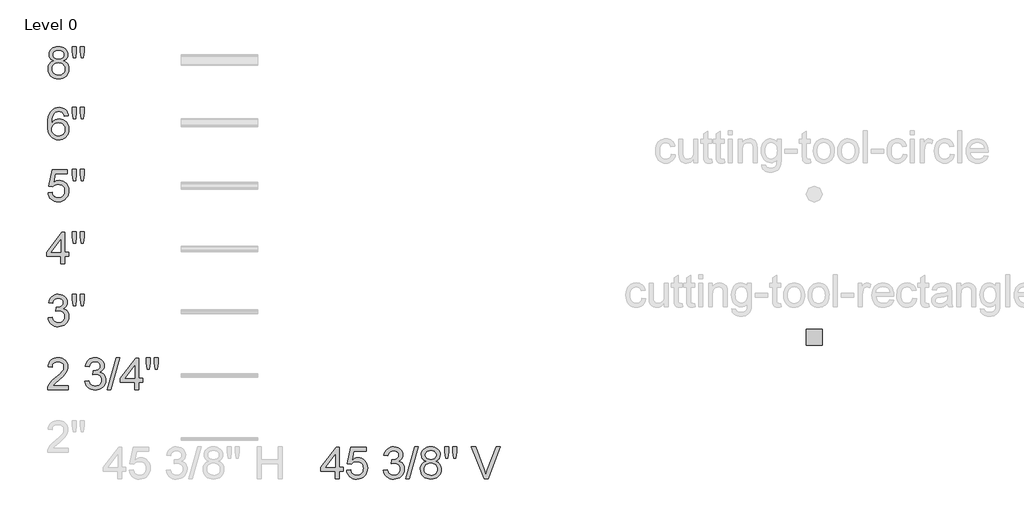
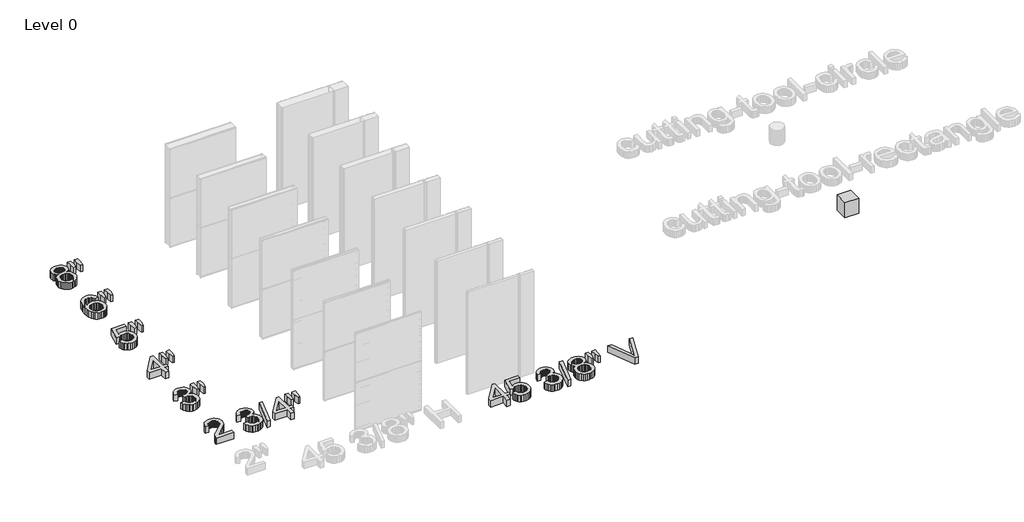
# One storey, part 2 of 4: 8 proxies.
"""IFC4 building model written with IfcOpenShell, lengths in millimetres."""

from ifc_helpers import new_model, si_unit, origin, origin_with_axes, place, context, project, spatial, polyline, outline, extrude, transform, mapped, element, save
from components import kingspan_ks_cutting_tool_rectangle_cutting_tool_rectangle_f435e5aa

model = new_model("IFC4")

# Units and contexts
model_context = context("Model", 3, world=origin())
ifc_project = project(units=[si_unit("LENGTHUNIT", "METRE", prefix="MILLI")], contexts=[model_context])

# Site, building, storey
site = spatial("IfcSite", under=ifc_project)
building = spatial("IfcBuilding", under=site)
storey = spatial("IfcBuildingStorey", under=building, Name="Level 0", Elevation=0.0)

# Proxies
placement = place(None, origin())
element("IfcBuildingElementProxy", 1, Name="24\" Arial", ObjectType="24\" Arial", at=placement, inside=storey, context=model_context, shape_type="SweptSolid", body=[
    extrude(outline(polyline([(-6239.8863907, 6438.6033745), (-6239.8863907, 6581.3691999), (-6515.9003197, 6581.3691999), (-6515.9003197, 6657.5109734), (-6220.8509473, 7038.219841), (-6163.7446171, 7038.219841), (-6163.7446171, 6657.5109734), (-6087.6028436, 6657.5109734), (-6087.6028436, 6581.3691999), (-6163.7446171, 6581.3691999), (-6163.7446171, 6438.6033745), (-6239.8863907, 6438.6033745)]), holes=[polyline([(-6239.8863907, 6657.5109734), (-6239.8863907, 6892.7771564), (-6422.2102468, 6657.5109734), (-6239.8863907, 6657.5109734)])]), origin_with_axes(), (0.0, 0.0, 1.0), 152.4),
    extrude(outline(polyline([(-6020.9787918, 6600.4046433), (-5944.8370183, 6609.922365), (-5939.1486924, 6585.4449039), (-5930.8578645, 6564.2112758), (-5919.9645346, 6546.2214806), (-5906.4687027, 6531.4755182), (-5890.3982527, 6519.991978), (-5871.7810686, 6511.7894493), (-5850.6171503, 6506.8679321), (-5826.906498, 6505.2274264), (-5797.9071897, 6507.509263), (-5772.3283126, 6514.3547728), (-5750.1698668, 6525.7639557), (-5731.4318523, 6541.7368119), (-5716.5325282, 6561.483296), (-5705.8901538, 6584.2133628), (-5699.5047292, 6609.9270123), (-5697.3762543, 6638.6242444), (-5699.3699568, 6665.7460334), (-5705.3510641, 6689.8563557), (-5715.3195763, 6710.9552114), (-5729.2754934, 6729.0426005), (-5747.2652887, 6743.5515493), (-5769.3354353, 6753.9150841), (-5795.4859333, 6760.133205), (-5825.7167828, 6762.205912), (-5862.6537222, 6758.8970166), (-5892.5639062, 6748.9703303), (-5916.4511569, 6733.7642827), (-5935.3192966, 6714.6173035), (-6011.4610701, 6724.1350252), (-5944.8370183, 7038.219841), (-5649.7876459, 7038.219841), (-5649.7876459, 6962.0780675), (-5883.2692561, 6962.0780675), (-5915.83771, 6794.3282227), (-5888.9668766, 6813.5867377), (-5861.4454177, 6827.3428198), (-5833.2733333, 6835.5964691), (-5804.4506234, 6838.3476855), (-5767.3696168, 6834.9365489), (-5733.3093716, 6824.7031392), (-5702.2698876, 6807.6474563), (-5674.2511649, 6783.7695002), (-5651.0563656, 6754.528531), (-5634.4886519, 6721.3838088), (-5624.5480236, 6684.3353336), (-5621.2344808, 6643.3831053), (-5624.2180635, 6603.9366103), (-5633.1688115, 6567.2413317), (-5648.0867249, 6533.2972696), (-5668.9718037, 6502.1044239), (-5700.6107926, 6470.1587116), (-5737.5291427, 6447.3403456), (-5779.7268541, 6433.649326), (-5827.2039268, 6429.0856528), (-5866.49706, 6432.018115), (-5901.9886814, 6440.8155013), (-5933.6787908, 6455.4778118), (-5961.5673884, 6476.0050465), (-5984.7714824, 6501.3747939), (-6002.4080809, 6530.5646425), (-6014.4771841, 6563.5745923), (-6020.9787918, 6600.4046433)])), origin_with_axes(), (0.0, 0.0, 1.0), 152.4),
    extrude(outline(polyline([(-5316.6673868, 6600.4046433), (-5240.5256132, 6609.922365), (-5223.479225, 6562.0735063), (-5211.9863901, 6543.9768226), (-5198.5137948, 6529.7653026), (-5182.7547156, 6519.0299817), (-5164.402429, 6511.3618954), (-5143.4569351, 6506.7610436), (-5119.9182337, 6505.2274264), (-5092.3317122, 6507.3373119), (-5067.7194788, 6513.6669686), (-5046.0815334, 6524.2163965), (-5027.417876, 6538.9855955), (-5012.3884268, 6556.8685023), (-5001.653106, 6576.7590534), (-4995.2119135, 6598.657249), (-4993.0648493, 6622.5630891), (-4995.1933242, 6645.3303345), (-5001.5787488, 6666.0434622), (-5012.2211231, 6684.7024722), (-5027.1204472, 6701.3073646), (-5045.3007828, 6714.937969), (-5065.7861916, 6724.6741149), (-5088.5766736, 6730.5158025), (-5113.6722288, 6732.4630317), (-5137.7267833, 6730.3810301), (-5167.0606989, 6724.1350252), (-5158.5839781, 6800.2767987), (-5146.3893972, 6799.3845123), (-5100.7712545, 6804.8497666), (-5059.9863299, 6821.2455293), (-5043.2001919, 6833.6445926), (-5031.2100933, 6848.9807652), (-5024.0160341, 6867.2540473), (-5021.6180144, 6888.4644388), (-5023.3561139, 6905.6827781), (-5028.5704126, 6921.3489108), (-5037.2609105, 6935.4628369), (-5049.4276074, 6948.0245565), (-5064.3362262, 6958.3369708), (-5081.2524893, 6965.702981), (-5100.1763969, 6970.1225871), (-5121.1079489, 6971.5957892), (-5141.983733, 6970.1086451), (-5161.0377657, 6965.6472131), (-5178.270047, 6958.211493), (-5193.6805768, 6947.8014849), (-5206.8882746, 6934.4171888), (-5217.5120596, 6918.0586047), (-5225.5519319, 6898.7257325), (-5231.0078916, 6876.4185723), (-5307.1496651, 6885.936294), (-5298.1245598, 6922.2876704), (-5284.7309691, 6954.30774), (-5266.9688927, 6981.9965026), (-5244.8383309, 7005.3539583), (-5219.0363822, 7023.8967852), (-5190.2601456, 7037.1416616), (-5158.5096209, 7045.0885874), (-5123.7848081, 7047.7375627), (-5075.9173602, 7042.5139693), (-5031.9536653, 7026.8431893), (-4994.8866007, 7002.11942), (-4967.7090439, 6969.7368591), (-4951.0344416, 6932.4281337), (-4945.4762409, 6892.9258708), (-4950.7556021, 6856.1190565), (-4966.5936859, 6822.7326734), (-4992.7674205, 6794.2910441), (-5029.0537344, 6772.3184913), (-5003.6793397, 6764.3808601), (-4981.3907688, 6753.0599763), (-4962.1880217, 6738.3558399), (-4946.0710985, 6720.2684508), (-4933.3188385, 6699.2439523), (-4924.2100815, 6675.7284876), (-4918.7448272, 6649.7220566), (-4916.9230758, 6621.2246595), (-4920.5665786, 6582.5960937), (-4931.4970871, 6547.0161732), (-4949.7146013, 6514.4848979), (-4975.2191211, 6485.0022678), (-5006.2911364, 6460.5387487), (-5041.2111368, 6443.0648066), (-5079.9791223, 6432.5804413), (-5122.5950929, 6429.0856528), (-5161.1121229, 6432.0692355), (-5196.2087216, 6441.0199836), (-5227.8848891, 6455.937897), (-5256.1406254, 6476.8229757), (-5279.8326885, 6502.448326), (-5297.8178364, 6531.587054), (-5310.0960691, 6564.2391598), (-5316.6673868, 6600.4046433)])), origin_with_axes(), (0.0, 0.0, 1.0), 152.4),
    extrude(outline(polyline([(-4888.3699107, 6438.6033745), (-4717.0509203, 7047.7375627), (-4648.3448669, 7047.7375627), (-4819.6638573, 6438.6033745), (-4888.3699107, 6438.6033745)])), origin_with_axes(), (0.0, 0.0, 1.0), 152.4),
    extrude(outline(polyline([(-4501.4150383, 6774.1030641), (-4542.1813736, 6794.1795083), (-4558.0055153, 6806.8945896), (-4570.7903065, 6821.3942437), (-4580.647283, 6837.5390509), (-4587.6879804, 6855.1895915), (-4593.3205383, 6895.0078724), (-4590.2533038, 6926.0612984), (-4581.0516002, 6954.5308116), (-4565.7154276, 6980.4164121), (-4544.2447859, 7003.7180999), (-4517.6713813, 7022.9766148), (-4487.0269199, 7036.732697), (-4452.3114019, 7044.9863462), (-4413.5248271, 7047.7375627), (-4374.5523592, 7044.9212837), (-4339.576591, 7036.4724468), (-4308.5975222, 7022.3910519), (-4281.615153, 7002.677099), (-4259.754136, 6978.9199734), (-4244.1391239, 6952.7090602), (-4234.7701166, 6924.0443593), (-4231.6471141, 6892.9258708), (-4237.2053149, 6854.3902516), (-4253.8799171, 6821.1711721), (-4266.4323421, 6806.7691118), (-4281.8568139, 6794.1237404), (-4321.3218982, 6774.1030641), (-4296.2960528, 6763.4560424), (-4274.4582724, 6749.9555632), (-4255.808557, 6733.6016263), (-4240.3469066, 6714.3942319), (-4228.2127409, 6692.7609339), (-4219.5454797, 6669.129286), (-4214.345123, 6643.4992884), (-4212.6116708, 6615.870941), (-4216.0506913, 6577.8930007), (-4226.3677529, 6543.0752415), (-4243.5628556, 6511.4176633), (-4267.6359993, 6482.9202662), (-4297.3231117, 6459.3676228), (-4331.3601203, 6442.5443062), (-4369.7470251, 6432.4503162), (-4412.4838262, 6429.0856528), (-4455.2206273, 6432.4642582), (-4493.6075322, 6442.6000741), (-4527.6445408, 6459.4931006), (-4557.3316532, 6483.1433378), (-4581.4047969, 6511.8405699), (-4598.5998996, 6543.8745814), (-4608.9169612, 6579.2453723), (-4612.3559817, 6617.9529426), (-4610.5528196, 6646.8407151), (-4605.1433333, 6673.2746999), (-4596.1275227, 6697.2548972), (-4583.5053879, 6718.7813068), (-4567.5557683, 6737.4635535), (-4548.5575035, 6752.9112619), (-4526.5105935, 6765.1244321), (-4501.4150383, 6774.1030641)]), holes=[polyline([(-4517.1787648, 6892.7771564), (-4515.4917858, 6875.3218036), (-4510.4308489, 6859.5394877), (-4501.9959539, 6845.4302089), (-4490.187101, 6832.9939671), (-4475.1530045, 6822.8442092), (-4457.0423788, 6815.5943821), (-4435.8552239, 6811.2444858), (-4411.5915398, 6809.7945204), (-4387.9273607, 6811.2351912), (-4367.200291, 6815.5572035), (-4349.4103307, 6822.7605573), (-4334.5574799, 6832.8452527), (-4322.8462208, 6845.0212443), (-4314.4810357, 6858.4984869), (-4309.4619247, 6873.2769805), (-4307.7888877, 6889.3567252), (-4309.5176926, 6906.0638587), (-4314.7041073, 6921.3860894), (-4323.3481319, 6935.3234172), (-4335.4497663, 6947.8758421), (-4350.6372246, 6958.253319), (-4368.5387206, 6965.6658024), (-4389.1542545, 6970.1132925), (-4412.4838262, 6971.5957892), (-4435.9946436, 6970.1458237), (-4456.7077714, 6965.7959275), (-4474.6232094, 6958.5461004), (-4489.7409578, 6948.3963425), (-4501.7449984, 6936.2203509), (-4510.3193131, 6922.8918227), (-4515.4639019, 6908.4107579), (-4517.1787648, 6892.7771564)]), polyline([(-4536.2142082, 6620.6298019), (-4533.0354379, 6591.5003685), (-4523.4991269, 6563.3004001), (-4505.8950596, 6538.706756), (-4478.5130205, 6520.3962953), (-4445.721495, 6509.0196436), (-4411.8889686, 6505.2274264), (-4384.3582151, 6507.2211288), (-4360.0619997, 6513.2022361), (-4339.0003227, 6523.1707484), (-4321.1731838, 6537.1266655), (-4306.9895477, 6554.1591118), (-4296.8583792, 6573.3572115), (-4290.779678, 6594.7209647), (-4288.7534443, 6618.2503714), (-4290.8447405, 6642.1562115), (-4297.1186294, 6663.9056927), (-4307.5751107, 6683.498815), (-4322.2141846, 6700.9355786), (-4340.5246453, 6715.2493397), (-4361.995287, 6725.4734548), (-4386.6261097, 6731.6079239), (-4414.4171135, 6733.6527469), (-4441.5435497, 6731.6358078), (-4465.5190996, 6725.5849906), (-4486.3437632, 6715.5002953), (-4504.0175403, 6701.3817218), (-4518.1035825, 6684.2330924), (-4528.1650412, 6665.0582293), (-4534.2019165, 6643.8571324), (-4536.2142082, 6620.6298019)])]), origin_with_axes(), (0.0, 0.0, 1.0), 152.4),
    extrude(outline(polyline([(-4127.3983188, 6828.8299638), (-4145.9876189, 6946.4630553), (-4145.9876189, 7047.7375627), (-4069.8458454, 7047.7375627), (-4069.8458454, 6946.4630553), (-4086.5018584, 6828.8299638), (-4127.3983188, 6828.8299638)])), origin_with_axes(), (0.0, 0.0, 1.0), 152.4),
    extrude(outline(polyline([(-3975.5609149, 6828.8299638), (-3993.7040719, 6946.4630553), (-3993.7040719, 7047.7375627), (-3917.5622984, 7047.7375627), (-3917.5622984, 6946.4630553), (-3935.4080265, 6828.8299638), (-3975.5609149, 6828.8299638)])), origin_with_axes(), (0.0, 0.0, 1.0), 152.4),
    extrude(outline(polyline([(-3394.9798919, 6438.6033745), (-3637.3843661, 7047.7375627), (-3555.8888742, 7047.7375627), (-3393.6414622, 6608.8813641), (-3360.7755795, 6509.9862872), (-3328.35584, 6608.8813641), (-3165.6622849, 7047.7375627), (-3084.1667929, 7047.7375627), (-3316.3099735, 6438.6033745), (-3394.9798919, 6438.6033745)])), origin_with_axes(), (0.0, 0.0, 1.0), 152.4),
])
element("IfcBuildingElementProxy", 2, Name="24\" Arial", ObjectType="24\" Arial", at=placement, inside=storey, context=model_context, shape_type="SweptSolid", body=[
    extrude(outline(polyline([(-11728.2912313, 9515.3406282), (-11652.1494578, 9524.8583499), (-11635.1030695, 9477.0094913), (-11623.6102347, 9458.9128075), (-11610.1376394, 9444.7012876), (-11594.3785602, 9433.9659667), (-11576.0262736, 9426.2978804), (-11555.0807796, 9421.6970286), (-11531.5420783, 9420.1634113), (-11503.9555568, 9422.2732969), (-11479.3433234, 9428.6029536), (-11457.705378, 9439.1523815), (-11439.0417206, 9453.9215804), (-11424.0122714, 9471.8044872), (-11413.2769505, 9491.6950384), (-11406.835758, 9513.593234), (-11404.6886939, 9537.499074), (-11406.8171687, 9560.2663194), (-11413.2025933, 9580.9794471), (-11423.8449677, 9599.6384572), (-11438.7442918, 9616.2433496), (-11456.9246274, 9629.8739539), (-11477.4100361, 9639.6100999), (-11500.2005182, 9645.4517875), (-11525.2960734, 9647.3990167), (-11549.3506278, 9645.317015), (-11578.6845435, 9639.0710102), (-11570.2078226, 9715.2127837), (-11558.0132417, 9714.3204973), (-11512.3950991, 9719.7857515), (-11471.6101745, 9736.1815143), (-11454.8240364, 9748.5805775), (-11442.8339378, 9763.9167502), (-11435.6398787, 9782.1900322), (-11433.2418589, 9803.4004237), (-11434.9799585, 9820.618763), (-11440.1942572, 9836.2848957), (-11448.884755, 9850.3988219), (-11461.051452, 9862.9605415), (-11475.9600707, 9873.2729558), (-11492.8763339, 9880.638966), (-11511.8002415, 9885.0585721), (-11532.7317935, 9886.5317741), (-11553.6075776, 9885.0446301), (-11572.6616102, 9880.5831981), (-11589.8938915, 9873.147478), (-11605.3044213, 9862.7374699), (-11618.5121191, 9849.3531738), (-11629.1359042, 9832.9945896), (-11637.1757765, 9813.6617174), (-11642.6317361, 9791.3545572), (-11718.7735096, 9800.8722789), (-11709.7484044, 9837.2236554), (-11696.3548136, 9869.243725), (-11678.5927373, 9896.9324876), (-11656.4621754, 9920.2899432), (-11630.6602268, 9938.8327702), (-11601.8839901, 9952.0776465), (-11570.1334654, 9960.0245724), (-11535.4086527, 9962.6735476), (-11487.5412047, 9957.4499543), (-11443.5775098, 9941.7791742), (-11406.5104453, 9917.055405), (-11379.3328884, 9884.6728441), (-11362.6582862, 9847.3641186), (-11357.1000854, 9807.8618558), (-11362.3794467, 9771.0550414), (-11378.2175304, 9737.6686583), (-11404.3912651, 9709.227029), (-11440.677579, 9687.2544762), (-11415.3031843, 9679.3168451), (-11393.0146134, 9667.9959613), (-11373.8118663, 9653.2918248), (-11357.694943, 9635.2044358), (-11344.9426831, 9614.1799373), (-11335.833926, 9590.6644725), (-11330.3686718, 9564.6580416), (-11328.5469203, 9536.1606444), (-11332.1904232, 9497.5320787), (-11343.1209317, 9461.9521581), (-11361.3384459, 9429.4208828), (-11386.8429657, 9399.9382527), (-11417.9149809, 9375.4747337), (-11452.8349813, 9358.0007915), (-11491.6029668, 9347.5164262), (-11534.2189375, 9344.0216378), (-11572.7359674, 9347.0052205), (-11607.8325662, 9355.9559685), (-11639.5087337, 9370.8738819), (-11667.7644699, 9391.7589607), (-11691.456533, 9417.3843109), (-11709.4416809, 9446.523039), (-11721.7199137, 9479.1751447), (-11728.2912313, 9515.3406282)])), origin_with_axes(), (0.0, 0.0, 1.0), 152.4),
    extrude(outline(polyline([(-11243.3335683, 9743.7659488), (-11261.9228685, 9861.3990403), (-11261.9228685, 9962.6735476), (-11185.781095, 9962.6735476), (-11185.781095, 9861.3990403), (-11202.437108, 9743.7659488), (-11243.3335683, 9743.7659488)])), origin_with_axes(), (0.0, 0.0, 1.0), 152.4),
    extrude(outline(polyline([(-11091.4961645, 9743.7659488), (-11109.6393215, 9861.3990403), (-11109.6393215, 9962.6735476), (-11033.497548, 9962.6735476), (-11033.497548, 9861.3990403), (-11051.3432761, 9743.7659488), (-11091.4961645, 9743.7659488)])), origin_with_axes(), (0.0, 0.0, 1.0), 152.4),
])
element("IfcBuildingElementProxy", 3, Name="24\" Arial", ObjectType="24\" Arial", at=placement, inside=storey, context=model_context, shape_type="SweptSolid", body=[
    extrude(outline(polyline([(-11480.8304674, 10548.3393595), (-11480.8304674, 10691.1051848), (-11756.8443964, 10691.1051848), (-11756.8443964, 10767.2469584), (-11461.795024, 11147.9558259), (-11404.6886939, 11147.9558259), (-11404.6886939, 10767.2469584), (-11328.5469203, 10767.2469584), (-11328.5469203, 10691.1051848), (-11404.6886939, 10691.1051848), (-11404.6886939, 10548.3393595), (-11480.8304674, 10548.3393595)]), holes=[polyline([(-11480.8304674, 10767.2469584), (-11480.8304674, 11002.5131414), (-11663.1543235, 10767.2469584), (-11480.8304674, 10767.2469584)])]), origin_with_axes(), (0.0, 0.0, 1.0), 152.4),
    extrude(outline(polyline([(-11243.3335683, 10938.5659488), (-11261.9228685, 11056.1990403), (-11261.9228685, 11157.4735476), (-11185.781095, 11157.4735476), (-11185.781095, 11056.1990403), (-11202.437108, 10938.5659488), (-11243.3335683, 10938.5659488)])), origin_with_axes(), (0.0, 0.0, 1.0), 152.4),
    extrude(outline(polyline([(-11091.4961645, 10938.5659488), (-11109.6393215, 11056.1990403), (-11109.6393215, 11157.4735476), (-11033.497548, 11157.4735476), (-11033.497548, 11056.1990403), (-11051.3432761, 10938.5659488), (-11091.4961645, 10938.5659488)])), origin_with_axes(), (0.0, 0.0, 1.0), 152.4),
])
element("IfcBuildingElementProxy", 4, Name="24\" Arial", ObjectType="24\" Arial", at=placement, inside=storey, context=model_context, shape_type="SweptSolid", body=[
    extrude(outline(polyline([(-11728.2912313, 11901.5390547), (-11652.1494578, 11911.0567763), (-11646.4611319, 11886.5793153), (-11638.1703041, 11865.3456872), (-11627.2769742, 11847.355892), (-11613.7811422, 11832.6099296), (-11597.7106922, 11821.1263894), (-11579.0935081, 11812.9238607), (-11557.9295899, 11808.0023435), (-11534.2189375, 11806.3618378), (-11505.2196292, 11808.6436744), (-11479.6407522, 11815.4891841), (-11457.4823064, 11826.8983671), (-11438.7442918, 11842.8712233), (-11423.8449677, 11862.6177074), (-11413.2025933, 11885.3477742), (-11406.8171687, 11911.0614237), (-11404.6886939, 11939.7586558), (-11406.6823963, 11966.8804448), (-11412.6635036, 11990.9907671), (-11422.6320159, 12012.0896228), (-11436.587933, 12030.1770119), (-11454.5777282, 12044.6859607), (-11476.6478748, 12055.0494955), (-11502.7983729, 12061.2676164), (-11533.0292223, 12063.3403234), (-11569.9661617, 12060.0314279), (-11599.8763457, 12050.1047417), (-11623.7635964, 12034.8986941), (-11642.6317361, 12015.7517149), (-11718.7735096, 12025.2694366), (-11652.1494578, 12339.3542524), (-11357.1000854, 12339.3542524), (-11357.1000854, 12263.2124789), (-11590.5816956, 12263.2124789), (-11623.1501495, 12095.4626341), (-11596.2793161, 12114.7211491), (-11568.7578572, 12128.4772312), (-11540.5857728, 12136.7308805), (-11511.7630629, 12139.4820969), (-11474.6820563, 12136.0709603), (-11440.6218111, 12125.8375506), (-11409.5823271, 12108.7818677), (-11381.5636044, 12084.9039116), (-11358.3688051, 12055.6629424), (-11341.8010914, 12022.5182202), (-11331.8604631, 11985.4697449), (-11328.5469203, 11944.5175167), (-11331.530503, 11905.0710217), (-11340.4812511, 11868.3757431), (-11355.3991644, 11834.431681), (-11376.2842432, 11803.2388353), (-11407.9232321, 11771.293123), (-11444.8415822, 11748.474757), (-11487.0392936, 11734.7837374), (-11534.5163663, 11730.2200642), (-11573.8094995, 11733.1525263), (-11609.3011209, 11741.9499127), (-11640.9912304, 11756.6122232), (-11668.8798279, 11777.1394579), (-11692.0839219, 11802.5092053), (-11709.7205204, 11831.6990539), (-11721.7896236, 11864.7090037), (-11728.2912313, 11901.5390547)])), origin_with_axes(), (0.0, 0.0, 1.0), 152.4),
    extrude(outline(polyline([(-11243.3335683, 12129.9643752), (-11261.9228685, 12247.5974667), (-11261.9228685, 12348.8719741), (-11185.781095, 12348.8719741), (-11185.781095, 12247.5974667), (-11202.437108, 12129.9643752), (-11243.3335683, 12129.9643752)])), origin_with_axes(), (0.0, 0.0, 1.0), 152.4),
    extrude(outline(polyline([(-11091.4961645, 12129.9643752), (-11109.6393215, 12247.5974667), (-11109.6393215, 12348.8719741), (-11033.497548, 12348.8719741), (-11033.497548, 12247.5974667), (-11051.3432761, 12129.9643752), (-11091.4961645, 12129.9643752)])), origin_with_axes(), (0.0, 0.0, 1.0), 152.4),
])
element("IfcBuildingElementProxy", 5, Name="24\" Arial", ObjectType="24\" Arial", at=placement, inside=storey, context=model_context, shape_type="SweptSolid", body=[
    extrude(outline(polyline([(-11338.064642, 8217.7818418), (-11338.064642, 8141.6400683), (-11737.808953, 8141.6400683), (-11736.135916, 8168.4458392), (-11729.6296609, 8194.136252), (-11710.8544677, 8235.1628375), (-11683.3794821, 8274.9625292), (-11643.6355583, 8316.6211509), (-11588.0535508, 8363.2245264), (-11505.888844, 8436.2061189), (-11456.5900199, 8490.0779108), (-11442.2111963, 8512.0876422), (-11431.9406079, 8533.7999448), (-11425.7782549, 8555.2148186), (-11423.7241372, 8576.3322636), (-11425.6620718, 8596.1995782), (-11431.4758754, 8614.4589183), (-11441.1655481, 8631.1102839), (-11454.7310899, 8646.1536751), (-11471.4196342, 8658.6131535), (-11490.4783142, 8667.512781), (-11511.9071299, 8672.8525574), (-11535.7060815, 8674.6324829), (-11560.7784001, 8672.8943834), (-11583.2017434, 8667.6800847), (-11602.9761115, 8658.9895868), (-11620.1015043, 8646.8228899), (-11633.9551802, 8631.5889584), (-11643.9143978, 8613.696757), (-11649.979157, 8593.1462856), (-11652.1494578, 8569.9375443), (-11728.2912313, 8579.455266), (-11721.7431503, 8618.7623413), (-11709.8320562, 8653.1060733), (-11692.557949, 8682.4864623), (-11669.9208288, 8706.903508), (-11642.4411958, 8726.0969605), (-11610.6395505, 8739.8065693), (-11574.5158929, 8748.0323347), (-11534.0702231, 8750.7742565), (-11493.2620619, 8747.7256112), (-11456.9432167, 8738.5796755), (-11425.1136874, 8723.3364494), (-11397.7734742, 8701.9959328), (-11375.8148634, 8676.1382162), (-11360.1301413, 8647.3433903), (-11350.7193081, 8615.6114549), (-11347.5823637, 8580.9424101), (-11350.9656164, 8544.525971), (-11361.1153742, 8508.7415682), (-11379.1284061, 8472.3437184), (-11406.1014807, 8434.0869387), (-11449.098532, 8388.4130281), (-11515.1834941, 8329.7637861), (-11602.7762765, 8256.5219434), (-11637.1293032, 8217.7818418), (-11338.064642, 8217.7818418)])), origin_with_axes(), (0.0, 0.0, 1.0), 152.4),
    extrude(outline(polyline([(-11023.9798263, 8303.441337), (-10947.8380528, 8312.9590587), (-10930.7916645, 8265.1102001), (-10919.2988297, 8247.0135164), (-10905.8262344, 8232.8019964), (-10890.0671551, 8222.0666755), (-10871.7148685, 8214.3985892), (-10850.7693746, 8209.7977374), (-10827.2306732, 8208.2641201), (-10799.6441518, 8210.3740057), (-10775.0319183, 8216.7036624), (-10753.3939729, 8227.2530903), (-10734.7303156, 8242.0222893), (-10719.7008664, 8259.905196), (-10708.9655455, 8279.7957472), (-10702.524353, 8301.6939428), (-10700.3772888, 8325.5997828), (-10702.5057637, 8348.3670282), (-10708.8911883, 8369.080156), (-10719.5335627, 8387.739166), (-10734.4328867, 8404.3440584), (-10752.6132223, 8417.9746627), (-10773.0986311, 8427.7108087), (-10795.8891131, 8433.5524963), (-10820.9846684, 8435.4997255), (-10845.0392228, 8433.4177239), (-10874.3731385, 8427.171719), (-10865.8964176, 8503.3134925), (-10853.7018367, 8502.4212061), (-10808.083694, 8507.8864604), (-10767.2987695, 8524.2822231), (-10750.5126314, 8536.6812863), (-10738.5225328, 8552.017459), (-10731.3284736, 8570.2907411), (-10728.9304539, 8591.5011326), (-10730.6685535, 8608.7194718), (-10735.8828522, 8624.3856046), (-10744.57335, 8638.4995307), (-10756.740047, 8651.0612503), (-10771.6486657, 8661.3736646), (-10788.5649289, 8668.7396748), (-10807.4888364, 8673.1592809), (-10828.4203884, 8674.6324829), (-10849.2961725, 8673.1453389), (-10868.3502052, 8668.6839069), (-10885.5824865, 8661.2481868), (-10900.9930163, 8650.8381787), (-10914.2007141, 8637.4538826), (-10924.8244991, 8621.0952984), (-10932.8643715, 8601.7624262), (-10938.3203311, 8579.455266), (-11014.4621046, 8588.9729877), (-11005.4369994, 8625.3243642), (-10992.0434086, 8657.3444338), (-10974.2813323, 8685.0331964), (-10952.1507704, 8708.3906521), (-10926.3488218, 8726.933479), (-10897.5725851, 8740.1783554), (-10865.8220604, 8748.1252812), (-10831.0972477, 8750.7742565), (-10783.2297997, 8745.5506631), (-10739.2661048, 8729.8798831), (-10702.1990402, 8705.1561138), (-10675.0214834, 8672.7735529), (-10658.3468811, 8635.4648275), (-10652.7886804, 8595.9625646), (-10658.0680416, 8559.1557502), (-10673.9061254, 8525.7693671), (-10700.07986, 8497.3277379), (-10736.366174, 8475.3551851), (-10710.9917792, 8467.4175539), (-10688.7032083, 8456.0966701), (-10669.5004612, 8441.3925336), (-10653.383538, 8423.3051446), (-10640.6312781, 8402.2806461), (-10631.522521, 8378.7651813), (-10626.0572667, 8352.7587504), (-10624.2355153, 8324.2613532), (-10627.8790181, 8285.6327875), (-10638.8095266, 8250.0528669), (-10657.0270408, 8217.5215916), (-10682.5315607, 8188.0389616), (-10713.6035759, 8163.5754425), (-10748.5235763, 8146.1015004), (-10787.2915618, 8135.6171351), (-10829.9075324, 8132.1223466), (-10868.4245624, 8135.1059293), (-10903.5211611, 8144.0566773), (-10935.1973286, 8158.9745907), (-10963.4530649, 8179.8596695), (-10987.145128, 8205.4850198), (-11005.1302759, 8234.6237478), (-11017.4085087, 8267.2758535), (-11023.9798263, 8303.441337)])), origin_with_axes(), (0.0, 0.0, 1.0), 152.4),
    extrude(outline(polyline([(-10595.6823502, 8141.6400683), (-10424.3633598, 8750.7742565), (-10355.6573064, 8750.7742565), (-10526.9762968, 8141.6400683), (-10595.6823502, 8141.6400683)])), origin_with_axes(), (0.0, 0.0, 1.0), 152.4),
    extrude(outline(polyline([(-10072.2076573, 8141.6400683), (-10072.2076573, 8284.4058937), (-10348.2215863, 8284.4058937), (-10348.2215863, 8360.5476672), (-10053.1722139, 8741.2565348), (-9996.0658838, 8741.2565348), (-9996.0658838, 8360.5476672), (-9919.9241103, 8360.5476672), (-9919.9241103, 8284.4058937), (-9996.0658838, 8284.4058937), (-9996.0658838, 8141.6400683), (-10072.2076573, 8141.6400683)]), holes=[polyline([(-10072.2076573, 8360.5476672), (-10072.2076573, 8595.8138502), (-10254.5315134, 8360.5476672), (-10072.2076573, 8360.5476672)])]), origin_with_axes(), (0.0, 0.0, 1.0), 152.4),
    extrude(outline(polyline([(-9834.7107583, 8531.8666576), (-9853.3000584, 8649.4997491), (-9853.3000584, 8750.7742565), (-9777.1582849, 8750.7742565), (-9777.1582849, 8649.4997491), (-9793.8142979, 8531.8666576), (-9834.7107583, 8531.8666576)])), origin_with_axes(), (0.0, 0.0, 1.0), 152.4),
    extrude(outline(polyline([(-9682.8733544, 8531.8666576), (-9701.0165114, 8649.4997491), (-9701.0165114, 8750.7742565), (-9624.8747379, 8750.7742565), (-9624.8747379, 8649.4997491), (-9642.7204661, 8531.8666576), (-9682.8733544, 8531.8666576)])), origin_with_axes(), (0.0, 0.0, 1.0), 152.4),
])
element("IfcBuildingElementProxy", 6, Name="24\" Arial", ObjectType="24\" Arial", at=placement, inside=storey, context=model_context, shape_type="SweptSolid", body=[
    extrude(outline(polyline([(-11338.064642, 13371.984797), (-11414.2064155, 13362.4670753), (-11426.4753537, 13400.2033547), (-11443.0570094, 13425.9681247), (-11459.4248882, 13439.826448), (-11477.5959291, 13449.7252504), (-11497.5701322, 13455.6645318), (-11519.3474973, 13457.6442922), (-11554.7415249, 13453.0341458), (-11588.0535508, 13439.2037065), (-11616.6624838, 13410.0742731), (-11640.0292341, 13369.9771526), (-11649.1612278, 13344.4029229), (-11655.8115499, 13313.2611978), (-11661.6671795, 13234.2752613), (-11631.1249593, 13269.9109498), (-11594.5226272, 13295.0250943), (-11553.9050064, 13309.9151237), (-11511.3169197, 13314.8784669), (-11474.7331769, 13311.4859196), (-11440.9750078, 13301.3082778), (-11410.0424123, 13284.3455414), (-11381.9353904, 13260.5977104), (-11358.5779348, 13231.4775717), (-11341.8940379, 13198.397912), (-11331.8836997, 13161.3587314), (-11328.5469203, 13120.3600299), (-11330.1177162, 13092.6015574), (-11334.8301038, 13065.8376124), (-11342.6840831, 13040.0681951), (-11353.6796542, 13015.2933053), (-11367.4264417, 12992.4377607), (-11383.5340703, 12972.4263791), (-11402.00254, 12955.2591604), (-11422.8318508, 12940.9361046), (-11445.5758596, 12929.647752), (-11469.7884231, 12921.5846431), (-11495.4695413, 12916.7467777), (-11522.6192142, 12915.1341559), (-11568.0096379, 12919.409695), (-11609.0036921, 12932.2363121), (-11645.6013768, 12953.6140073), (-11677.802692, 12983.5427806), (-11704.0554312, 13023.2867043), (-11722.8073878, 13074.109851), (-11734.0585617, 13136.0122206), (-11737.808953, 13208.9938131), (-11733.6449498, 13290.8146178), (-11721.15294, 13360.6453239), (-11700.3329238, 13418.4859314), (-11686.7999133, 13442.9099482), (-11671.1849012, 13464.3364403), (-11639.5923855, 13494.7206514), (-11602.9621695, 13516.4236594), (-11561.2942532, 13529.4454642), (-11514.5886365, 13533.7860658), (-11479.5199217, 13531.0999119), (-11447.7786917, 13523.0414503), (-11419.3649463, 13509.6106809), (-11394.2786858, 13490.8076037), (-11373.1984194, 13467.2642551), (-11356.8026566, 13439.6126711), (-11345.0913975, 13407.8528517), (-11338.064642, 13371.984797)]), holes=[polyline([(-11661.6671795, 13121.5497451), (-11657.2615153, 13087.8101653), (-11644.0445229, 13055.594908), (-11623.5219355, 13027.8968508), (-11597.1994865, 13007.7088708), (-11565.4303725, 12995.3841648), (-11528.5677902, 12991.2759294), (-11502.1012741, 12993.4044043), (-11478.3209119, 12999.7898289), (-11457.2267035, 13010.4322033), (-11438.818649, 13025.3315274), (-11423.8867936, 13043.8836489), (-11413.2211826, 13065.4844157), (-11406.8218161, 13090.1338278), (-11404.6886939, 13117.831885), (-11406.7939321, 13144.4471156), (-11413.1096468, 13168.0787634), (-11423.6358381, 13188.7268286), (-11438.3725058, 13206.3913111), (-11456.8363282, 13220.5424158), (-11478.5439835, 13230.6503478), (-11503.4954716, 13236.715107), (-11531.6907927, 13238.7366934), (-11557.8041121, 13236.715107), (-11581.8633138, 13230.6503478), (-11603.8683979, 13220.5424158), (-11623.8193643, 13206.3913111), (-11640.3777835, 13188.9591948), (-11652.2052257, 13169.0082284), (-11659.301691, 13146.5384118), (-11661.6671795, 13121.5497451)])]), origin_with_axes(), (0.0, 0.0, 1.0), 152.4),
    extrude(outline(polyline([(-11243.3335683, 13314.8784669), (-11261.9228685, 13432.5115584), (-11261.9228685, 13533.7860658), (-11185.781095, 13533.7860658), (-11185.781095, 13432.5115584), (-11202.437108, 13314.8784669), (-11243.3335683, 13314.8784669)])), origin_with_axes(), (0.0, 0.0, 1.0), 152.4),
    extrude(outline(polyline([(-11091.4961645, 13314.8784669), (-11109.6393215, 13432.5115584), (-11109.6393215, 13533.7860658), (-11033.497548, 13533.7860658), (-11033.497548, 13432.5115584), (-11051.3432761, 13314.8784669), (-11091.4961645, 13314.8784669)])), origin_with_axes(), (0.0, 0.0, 1.0), 152.4),
])
element("IfcBuildingElementProxy", 7, Name="24\" Arial", ObjectType="24\" Arial", at=placement, inside=storey, context=model_context, shape_type="SweptSolid", body=[
    extrude(outline(polyline([(-11617.3502879, 14424.5325452), (-11658.1166231, 14444.6089894), (-11673.9407649, 14457.3240707), (-11686.7255561, 14471.8237248), (-11696.5825325, 14487.968532), (-11703.62323, 14505.6190726), (-11709.2557879, 14545.4373535), (-11706.1885534, 14576.4907795), (-11696.9868498, 14604.9602927), (-11681.6506772, 14630.8458932), (-11660.1800355, 14654.147581), (-11633.6066309, 14673.4060959), (-11602.9621695, 14687.1621781), (-11568.2466515, 14695.4158273), (-11529.4600766, 14698.1670438), (-11490.4876088, 14695.3507648), (-11455.5118405, 14686.9019279), (-11424.5327718, 14672.820533), (-11397.5504026, 14653.1065801), (-11375.6893856, 14629.3494545), (-11360.0743734, 14603.1385413), (-11350.7053662, 14574.4738404), (-11347.5823637, 14543.3553519), (-11353.1405645, 14504.8197326), (-11369.8151667, 14471.6006532), (-11382.3675917, 14457.1985929), (-11397.7920635, 14444.5532215), (-11437.2571478, 14424.5325452), (-11412.2313024, 14413.8855235), (-11390.393522, 14400.3850443), (-11371.7438066, 14384.0311074), (-11356.2821562, 14364.823713), (-11344.1479905, 14343.1904149), (-11335.4807293, 14319.5587671), (-11330.2803726, 14293.9287695), (-11328.5469203, 14266.3004221), (-11331.9859409, 14228.3224818), (-11342.3030025, 14193.5047226), (-11359.4981051, 14161.8471444), (-11383.5712489, 14133.3497472), (-11413.2583612, 14109.7971039), (-11447.2953699, 14092.9737873), (-11485.6822747, 14082.8797973), (-11528.4190758, 14079.5151339), (-11571.1558769, 14082.8937392), (-11609.5427818, 14093.0295552), (-11643.5797904, 14109.9225817), (-11673.2669028, 14133.5728189), (-11697.3400465, 14162.270051), (-11714.5351492, 14194.3040625), (-11724.8522108, 14229.6748534), (-11728.2912313, 14268.3824237), (-11726.4880692, 14297.2701962), (-11721.0785828, 14323.704181), (-11712.0627723, 14347.6843783), (-11699.4406374, 14369.2107879), (-11683.4910179, 14387.8930345), (-11664.4927531, 14403.340743), (-11642.4458431, 14415.5539132), (-11617.3502879, 14424.5325452)]), holes=[polyline([(-11633.1140144, 14543.2066375), (-11631.4270354, 14525.7512846), (-11626.3660984, 14509.9689688), (-11617.9312035, 14495.85969), (-11606.1223506, 14483.4234481), (-11591.088254, 14473.2736902), (-11572.9776283, 14466.0238632), (-11551.7904735, 14461.6739669), (-11527.5267894, 14460.2240015), (-11503.8626103, 14461.6646723), (-11483.1355406, 14465.9866846), (-11465.3455803, 14473.1900384), (-11450.4927295, 14483.2747337), (-11438.7814704, 14495.4507254), (-11430.4162853, 14508.927968), (-11425.3971743, 14523.7064616), (-11423.7241372, 14539.7862063), (-11425.4529422, 14556.4933398), (-11430.6393569, 14571.8155705), (-11439.2833815, 14585.7528983), (-11451.3850159, 14598.3053232), (-11466.5724741, 14608.6828), (-11484.4739702, 14616.0952835), (-11505.0895041, 14620.5427736), (-11528.4190758, 14622.0252703), (-11551.9298932, 14620.5753048), (-11572.6430209, 14616.2254086), (-11590.558459, 14608.9755815), (-11605.6762074, 14598.8258236), (-11617.6802479, 14586.649832), (-11626.2545626, 14573.3213038), (-11631.3991515, 14558.840239), (-11633.1140144, 14543.2066375)]), polyline([(-11652.1494578, 14271.0592829), (-11648.9706875, 14241.9298496), (-11639.4343765, 14213.7298812), (-11621.8303092, 14189.1362371), (-11594.44827, 14170.8257764), (-11561.6567445, 14159.4491247), (-11527.8242182, 14155.6569075), (-11500.2934647, 14157.6506099), (-11475.9972493, 14163.6317172), (-11454.9355722, 14173.6002295), (-11437.1084334, 14187.5561466), (-11422.9247973, 14204.5885928), (-11412.7936287, 14223.7866926), (-11406.7149276, 14245.1504458), (-11404.6886939, 14268.6798525), (-11406.7799901, 14292.5856925), (-11413.0538789, 14314.3351738), (-11423.5103603, 14333.9282961), (-11438.1494342, 14351.3650597), (-11456.4598948, 14365.6788208), (-11477.9305366, 14375.9029359), (-11502.5613593, 14382.037405), (-11530.352363, 14384.082228), (-11557.4787993, 14382.0652889), (-11581.4543492, 14376.0144717), (-11602.2790127, 14365.9297764), (-11619.9527899, 14351.8112029), (-11634.0388321, 14334.6625735), (-11644.1002908, 14315.4877104), (-11650.137166, 14294.2866135), (-11652.1494578, 14271.0592829)])]), origin_with_axes(), (0.0, 0.0, 1.0), 152.4),
    extrude(outline(polyline([(-11243.3335683, 14479.2594449), (-11261.9228685, 14596.8925364), (-11261.9228685, 14698.1670438), (-11185.781095, 14698.1670438), (-11185.781095, 14596.8925364), (-11202.437108, 14479.2594449), (-11243.3335683, 14479.2594449)])), origin_with_axes(), (0.0, 0.0, 1.0), 152.4),
    extrude(outline(polyline([(-11091.4961645, 14479.2594449), (-11109.6393215, 14596.8925364), (-11109.6393215, 14698.1670438), (-11033.497548, 14698.1670438), (-11033.497548, 14596.8925364), (-11051.3432761, 14479.2594449), (-11091.4961645, 14479.2594449)])), origin_with_axes(), (0.0, 0.0, 1.0), 152.4),
])
kingspan_ks_cutting_tool_rectangle_cutting_tool_rectangle_shape = kingspan_ks_cutting_tool_rectangle_cutting_tool_rectangle_f435e5aa(model_context)
element("IfcBuildingElementProxy", 8, Name="kingspan-ks-cutting-tool-rectangle : cutting-tool-rectangle", ObjectType="kingspan-ks-cutting-tool-rectangle : cutting-tool-rectangle", at=placement, inside=storey, context=model_context, shape_type="MappedRepresentation", body=[
    mapped(kingspan_ks_cutting_tool_rectangle_cutting_tool_rectangle_shape, transform((2918.7362042, 9142.1794904, 0.0), x_axis=(1.0, 0.0, 0.0), y_axis=(0.0, 1.0, 0.0), z_axis=(0.0, 0.0, 1.0))),
])

save(model, "model.ifc")
